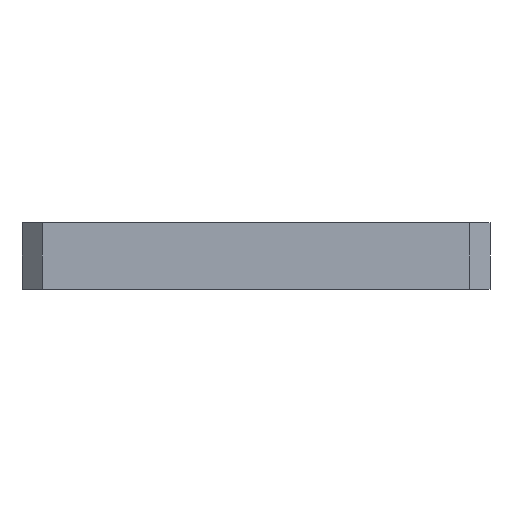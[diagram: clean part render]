
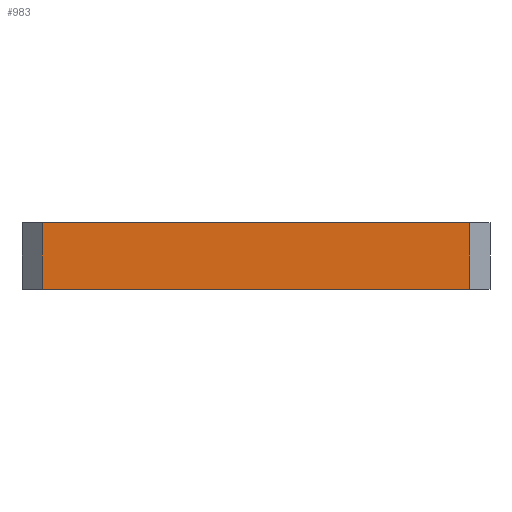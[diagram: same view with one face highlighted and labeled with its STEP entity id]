
A CAD part, left-side view. The second image highlights one B-rep face of the part: STEP entity #983.
In plain terms, the highlighted planar face has unit normal (-1, 0, 0).
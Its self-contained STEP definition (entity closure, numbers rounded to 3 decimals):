
#18 = ORIENTED_EDGE ( 'NONE', *, *, #231, .F. ) ;
#34 = VECTOR ( 'NONE', #539, 1000. ) ;
#71 = EDGE_CURVE ( 'NONE', #569, #743, #374, .T. ) ;
#137 = VECTOR ( 'NONE', #450, 1000. ) ;
#231 = EDGE_CURVE ( 'NONE', #569, #273, #1392, .T. ) ;
#273 = VERTEX_POINT ( 'NONE', #1203 ) ;
#278 = ORIENTED_EDGE ( 'NONE', *, *, #1284, .T. ) ;
#348 = ORIENTED_EDGE ( 'NONE', *, *, #1107, .T. ) ;
#374 = LINE ( 'NONE', #1374, #932 ) ;
#447 = VERTEX_POINT ( 'NONE', #1197 ) ;
#450 = DIRECTION ( 'NONE',  ( 0., -1., 0. ) ) ;
#451 = AXIS2_PLACEMENT_3D ( 'NONE', #1092, #1388, #1347 ) ;
#490 = ORIENTED_EDGE ( 'NONE', *, *, #71, .T. ) ;
#539 = DIRECTION ( 'NONE',  ( 0., 0., 1. ) ) ;
#569 = VERTEX_POINT ( 'NONE', #1117 ) ;
#638 = FACE_OUTER_BOUND ( 'NONE', #1170, .T. ) ;
#743 = VERTEX_POINT ( 'NONE', #1084 ) ;
#840 = CARTESIAN_POINT ( 'NONE',  ( -35., -35., 0. ) ) ;
#932 = VECTOR ( 'NONE', #1099, 1000. ) ;
#983 = ADVANCED_FACE ( 'NONE', ( #638 ), #1166, .F. ) ;
#1021 = CARTESIAN_POINT ( 'NONE',  ( -35., -32., 10. ) ) ;
#1084 = CARTESIAN_POINT ( 'NONE',  ( -35., 32., 0. ) ) ;
#1092 = CARTESIAN_POINT ( 'NONE',  ( -35., -35., 10. ) ) ;
#1099 = DIRECTION ( 'NONE',  ( 0., 0., -1. ) ) ;
#1107 = EDGE_CURVE ( 'NONE', #743, #447, #1339, .T. ) ;
#1117 = CARTESIAN_POINT ( 'NONE',  ( -35., 32., 10. ) ) ;
#1166 = PLANE ( 'NONE',  #451 ) ;
#1170 = EDGE_LOOP ( 'NONE', ( #348, #278, #18, #490 ) ) ;
#1197 = CARTESIAN_POINT ( 'NONE',  ( -35., -32., 0. ) ) ;
#1203 = CARTESIAN_POINT ( 'NONE',  ( -35., -32., 10. ) ) ;
#1236 = CARTESIAN_POINT ( 'NONE',  ( -35., -35., 10. ) ) ;
#1284 = EDGE_CURVE ( 'NONE', #447, #273, #1311, .T. ) ;
#1311 = LINE ( 'NONE', #1021, #34 ) ;
#1339 = LINE ( 'NONE', #840, #137 ) ;
#1343 = DIRECTION ( 'NONE',  ( 0., -1., 0. ) ) ;
#1344 = VECTOR ( 'NONE', #1343, 1000. ) ;
#1347 = DIRECTION ( 'NONE',  ( 0., 1., 0. ) ) ;
#1374 = CARTESIAN_POINT ( 'NONE',  ( -35., 32., 10. ) ) ;
#1388 = DIRECTION ( 'NONE',  ( 1., 0., 0. ) ) ;
#1392 = LINE ( 'NONE', #1236, #1344 ) ;
